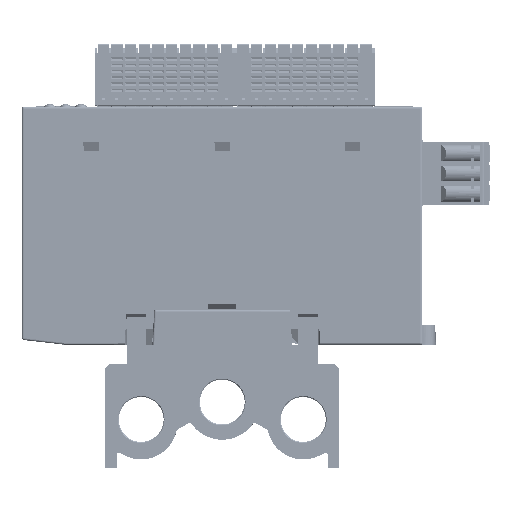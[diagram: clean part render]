
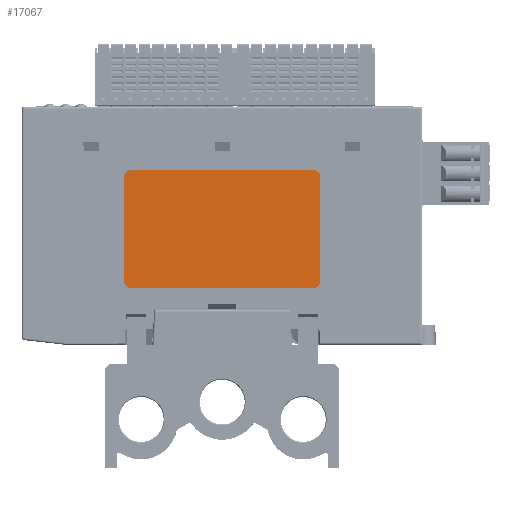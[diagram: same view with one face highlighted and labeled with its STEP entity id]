
A CAD part, front view. The second image highlights one B-rep face of the part: STEP entity #17067.
In plain terms, the highlighted planar face has unit normal (0, -1, 0).
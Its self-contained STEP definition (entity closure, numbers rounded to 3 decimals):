
#7546=FACE_OUTER_BOUND('',#72327,.T.);
#17067=ADVANCED_FACE('',(#7546),#26787,.F.);
#26787=PLANE('',#183295);
#34575=LINE('',#255138,#52800);
#34579=LINE('',#255146,#52804);
#34581=LINE('',#255150,#52806);
#34584=LINE('',#255158,#52809);
#52800=VECTOR('',#201263,1.);
#52804=VECTOR('',#201269,1.);
#52806=VECTOR('',#201273,1.);
#52809=VECTOR('',#201280,1.);
#72327=EDGE_LOOP('',(#86202,#86203,#86204,#86205,#86206,#86207,#86208,#86209));
#86202=ORIENTED_EDGE('',*,*,#153935,.F.);
#86203=ORIENTED_EDGE('',*,*,#153940,.T.);
#86204=ORIENTED_EDGE('',*,*,#153941,.F.);
#86205=ORIENTED_EDGE('',*,*,#153942,.T.);
#86206=ORIENTED_EDGE('',*,*,#153937,.F.);
#86207=ORIENTED_EDGE('',*,*,#153943,.T.);
#86208=ORIENTED_EDGE('',*,*,#153931,.F.);
#86209=ORIENTED_EDGE('',*,*,#153944,.T.);
#136436=VERTEX_POINT('',#255139);
#136437=VERTEX_POINT('',#255140);
#136438=VERTEX_POINT('',#255145);
#136439=VERTEX_POINT('',#255147);
#136440=VERTEX_POINT('',#255151);
#136441=VERTEX_POINT('',#255152);
#136442=VERTEX_POINT('',#255157);
#136443=VERTEX_POINT('',#255159);
#153931=EDGE_CURVE('',#136436,#136437,#34575,.T.);
#153935=EDGE_CURVE('',#136438,#136439,#34579,.T.);
#153937=EDGE_CURVE('',#136440,#136441,#34581,.T.);
#153940=EDGE_CURVE('',#136438,#136442,#177831,.T.);
#153941=EDGE_CURVE('',#136443,#136442,#34584,.T.);
#153942=EDGE_CURVE('',#136443,#136441,#177832,.T.);
#153943=EDGE_CURVE('',#136440,#136437,#177833,.T.);
#153944=EDGE_CURVE('',#136436,#136439,#177834,.T.);
#177831=CIRCLE('',#183291,1.8);
#177832=CIRCLE('',#183292,1.8);
#177833=CIRCLE('',#183293,1.8);
#177834=CIRCLE('',#183294,1.8);
#183291=AXIS2_PLACEMENT_3D('',#255156,#201278,#201279);
#183292=AXIS2_PLACEMENT_3D('',#255160,#201281,#201282);
#183293=AXIS2_PLACEMENT_3D('',#255161,#201283,#201284);
#183294=AXIS2_PLACEMENT_3D('',#255162,#201285,#201286);
#183295=AXIS2_PLACEMENT_3D('',#255163,#201287,#201288);
#201263=DIRECTION('',(0.,0.,-1.));
#201269=DIRECTION('',(1.,0.,0.));
#201273=DIRECTION('',(-1.,0.,0.));
#201278=DIRECTION('',(0.,-1.,0.));
#201279=DIRECTION('',(0.,0.,1.));
#201280=DIRECTION('',(0.,0.,1.));
#201281=DIRECTION('',(0.,-1.,0.));
#201282=DIRECTION('',(0.,0.,-1.));
#201283=DIRECTION('',(0.,-1.,0.));
#201284=DIRECTION('',(0.,0.,-1.));
#201285=DIRECTION('',(0.,-1.,0.));
#201286=DIRECTION('',(0.,0.,-1.));
#201287=DIRECTION('',(0.,1.,0.));
#201288=DIRECTION('',(0.,0.,-1.));
#255138=CARTESIAN_POINT('',(525.15,397.36,34.634));
#255139=CARTESIAN_POINT('',(525.15,397.36,47.934));
#255140=CARTESIAN_POINT('',(525.15,397.36,21.334));
#255145=CARTESIAN_POINT('',(476.75,397.36,49.734));
#255146=CARTESIAN_POINT('',(500.05,397.36,49.734));
#255147=CARTESIAN_POINT('',(523.35,397.36,49.734));
#255150=CARTESIAN_POINT('',(475.05,397.36,19.534));
#255151=CARTESIAN_POINT('',(523.35,397.36,19.534));
#255152=CARTESIAN_POINT('',(476.75,397.36,19.534));
#255156=CARTESIAN_POINT('',(476.75,397.36,47.934));
#255157=CARTESIAN_POINT('',(474.95,397.36,47.934));
#255158=CARTESIAN_POINT('',(474.95,397.36,34.634));
#255159=CARTESIAN_POINT('',(474.95,397.36,21.334));
#255160=CARTESIAN_POINT('',(476.75,397.36,21.334));
#255161=CARTESIAN_POINT('',(523.35,397.36,21.334));
#255162=CARTESIAN_POINT('',(523.35,397.36,47.934));
#255163=CARTESIAN_POINT('',(500.041,397.36,23.341));
